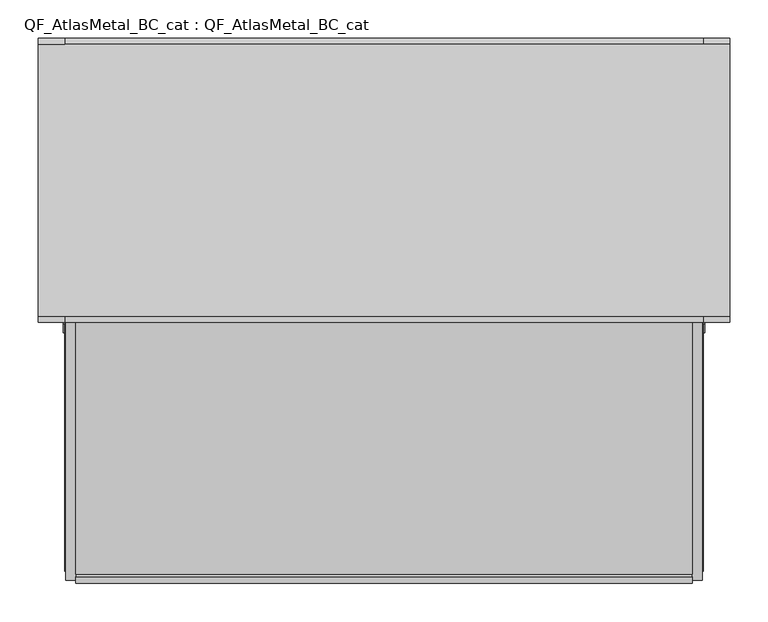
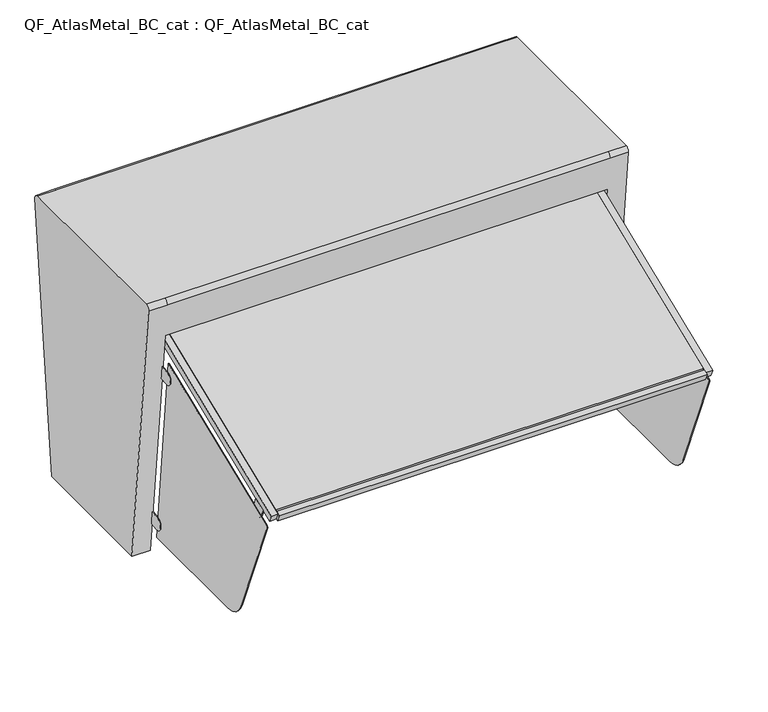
"""IFC4 building model written with IfcOpenShell, lengths in millimetres: proxy geometry, QF_AtlasMetal_BC_cat : QF_AtlasMetal_BC_cat."""

from ifc_helpers import new_model, si_unit, point, frame, frame_2d, origin, place, context, project, spatial, polyline, circle_curve, trimmed, segment, composite_curve, outline, extrude, source, transform, mapped, element, save
from ifc_brep_helpers import plane_surface, cylinder_surface, advanced_brep


def qf_atlasmetal_bc_cat_qf_atlasmetal_bc_cat_d30facc0(model_context):
    return source(origin(), model_context, "Body", "SolidModel", [
        extrude(outline(composite_curve([segment(polyline([(-668.0282211, 69.8699851), (-751.0990527, 275.4775082)]), True, "CONTINUOUS"), segment(trimmed(circle_curve(frame_2d((-748.155244, 276.6668842)), 3.175), [point((-751.0990527, 275.4775082))], [point((-749.3446199, 279.6106929))], False, "CARTESIAN"), True, "CONTINUOUS"), segment(polyline([(-749.3446199, 279.6106929), (-428.4785012, 409.2490198), (-389.817145, 38.1), (-620.9272813, 38.1)]), True, "CONTINUOUS"), segment(trimmed(circle_curve(frame_2d((-620.9272813, 88.9)), 50.8), [point((-620.9272813, 38.1))], [point((-668.0282211, 69.8699851))], False, "CARTESIAN"), True, "CONTINUOUS")], self_intersect=False)), frame((476.1553745, 0.0, 0.0), z_axis=(1.0, 0.0, 0.0), x_axis=(0.0, 1.0, 0.0)), (0.0, 0.0, 1.0), 1.6002),
        extrude(outline(composite_curve([segment(trimmed(circle_curve(frame_2d((-719.012123, 291.8658171)), 12.7), [point((-707.2368881, 296.6233209))], [point((-730.787358, 287.1083134))], False, "CARTESIAN"), True, "CONTINUOUS"), segment(polyline([(-730.787358, 287.1083134), (-736.7342377, 301.8273571), (-713.1837677, 311.3423646), (-707.2368881, 296.6233209)]), True, "CONTINUOUS")], self_intersect=False)), frame((474.5678745, 0.0, 0.0), z_axis=(1.0, 0.0, 0.0), x_axis=(0.0, 1.0, 0.0)), (0.0, 0.0, 1.0), 1.6002),
        extrude(outline(composite_curve([segment(polyline([(-408.4125929, 368.2533916), (-424.2021601, 366.608645)]), True, "CONTINUOUS"), segment(trimmed(circle_curve(frame_2d((-425.5179574, 379.2402988)), 12.7), [point((-424.2021601, 366.608645))], [point((-426.8337547, 391.8719526))], False, "CARTESIAN"), True, "CONTINUOUS"), segment(polyline([(-426.8337547, 391.8719526), (-411.0441874, 393.5166992), (-408.4125929, 368.2533916)]), True, "CONTINUOUS")], self_intersect=False)), frame((477.7555745, 0.0, 0.0), z_axis=(1.0, 0.0, 0.0), x_axis=(0.0, 1.0, 0.0)), (0.0, 0.0, 1.0), 1.6002),
        extrude(outline(composite_curve([segment(polyline([(-375.9013013, 57.7324921), (-391.6908685, 56.0877455)]), True, "CONTINUOUS"), segment(trimmed(circle_curve(frame_2d((-393.0066658, 68.7193993)), 12.7), [point((-391.6908685, 56.0877455))], [point((-394.322463, 81.3510531))], False, "CARTESIAN"), True, "CONTINUOUS"), segment(polyline([(-394.322463, 81.3510531), (-378.5328958, 82.9957997), (-375.9013013, 57.7324921)]), True, "CONTINUOUS")], self_intersect=False)), frame((477.7555745, 0.0, 0.0), z_axis=(1.0, 0.0, 0.0), x_axis=(0.0, 1.0, 0.0)), (0.0, 0.0, 1.0), 1.6002),
        extrude(outline(composite_curve([segment(polyline([(-668.0282211, 69.8699851), (-751.0990527, 275.4775082)]), True, "CONTINUOUS"), segment(trimmed(circle_curve(frame_2d((-748.155244, 276.6668842)), 3.175), [point((-751.0990527, 275.4775082))], [point((-749.3446199, 279.6106929))], False, "CARTESIAN"), True, "CONTINUOUS"), segment(polyline([(-749.3446199, 279.6106929), (-428.4785012, 409.2490198), (-389.817145, 38.1), (-620.9272813, 38.1)]), True, "CONTINUOUS"), segment(trimmed(circle_curve(frame_2d((-620.9272813, 88.9)), 50.8), [point((-620.9272813, 38.1))], [point((-668.0282211, 69.8699851))], False, "CARTESIAN"), True, "CONTINUOUS")], self_intersect=False)), frame((-360.4444255, 0.0, 0.0), z_axis=(1.0, 0.0, 0.0), x_axis=(0.0, 1.0, 0.0)), (0.0, 0.0, 1.0), 1.6002),
        extrude(outline(composite_curve([segment(trimmed(circle_curve(frame_2d((-719.012123, 291.8658171)), 12.7), [point((-707.2368881, 296.6233209))], [point((-730.787358, 287.1083134))], False, "CARTESIAN"), True, "CONTINUOUS"), segment(polyline([(-730.787358, 287.1083134), (-736.7342377, 301.8273571), (-713.1837677, 311.3423646), (-707.2368881, 296.6233209)]), True, "CONTINUOUS")], self_intersect=False)), frame((-358.8569255, 0.0, 0.0), z_axis=(1.0, 0.0, 0.0), x_axis=(0.0, 1.0, 0.0)), (0.0, 0.0, 1.0), 1.6002),
        extrude(outline(composite_curve([segment(polyline([(-408.4125929, 368.2533916), (-424.2021601, 366.608645)]), True, "CONTINUOUS"), segment(trimmed(circle_curve(frame_2d((-425.5179574, 379.2402988)), 12.7), [point((-424.2021601, 366.608645))], [point((-426.8337547, 391.8719526))], False, "CARTESIAN"), True, "CONTINUOUS"), segment(polyline([(-426.8337547, 391.8719526), (-411.0441874, 393.5166992), (-408.4125929, 368.2533916)]), True, "CONTINUOUS")], self_intersect=False)), frame((-362.0446255, 0.0, 0.0), z_axis=(1.0, 0.0, 0.0), x_axis=(0.0, 1.0, 0.0)), (0.0, 0.0, 1.0), 1.6002),
        extrude(outline(composite_curve([segment(polyline([(-375.9013013, 57.7324921), (-391.6908685, 56.0877455)]), True, "CONTINUOUS"), segment(trimmed(circle_curve(frame_2d((-393.0066658, 68.7193993)), 12.7), [point((-391.6908685, 56.0877455))], [point((-394.322463, 81.3510531))], False, "CARTESIAN"), True, "CONTINUOUS"), segment(polyline([(-394.322463, 81.3510531), (-378.5328958, 82.9957997), (-375.9013013, 57.7324921)]), True, "CONTINUOUS")], self_intersect=False)), frame((-362.0446255, 0.0, 0.0), z_axis=(1.0, 0.0, 0.0), x_axis=(0.0, 1.0, 0.0)), (0.0, 0.0, 1.0), 1.6002),
        extrude(outline(polyline([(0.0, -376.7075879), (0.0, 0.0), (809.625, 0.0), (809.625, -376.7075879), (0.0, -376.7075879)])), frame((463.4680745, -752.3773219, 302.4805103), z_axis=(0.0, -0.3746065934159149, 0.9271838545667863), x_axis=(-1.0, 0.0, 0.0)), (0.0, 0.0, 1.0), 7.8219044),
        extrude(outline(polyline([(0.0, -21.1888956), (0.0, 0.0), (809.625, 0.0), (809.625, -21.1888956), (0.0, -21.1888956)])), frame((463.4680745, -400.6780737, 437.6028607), z_axis=(0.0, -0.37460659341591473, 0.9271838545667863), x_axis=(-1.0, 0.0, 0.0)), (0.0, 0.0, 1.0), 14.2875),
        extrude(outline(polyline([(0.0, -9.525), (0.0, 0.0), (809.625, 0.0), (809.625, -9.525), (0.0, -9.525)])), frame((463.4680745, -762.1645087, 291.5528607), z_axis=(0.0, -0.3746065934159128, 0.9271838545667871), x_axis=(-1.0, 0.0, 0.0)), (0.0, 0.0, 1.0), 14.2875),
        extrude(outline(polyline([(0.0, -406.8267956), (0.0, 0.0), (12.7, 0.0), (12.7, -406.8267956), (0.0, -406.8267956)])), frame((476.1680745, -758.2353083, 293.1403607), z_axis=(0.0, -0.3746065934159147, 0.9271838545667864), x_axis=(-1.0, 0.0, 0.0)), (0.0, 0.0, 1.0), 14.2875),
        extrude(outline(polyline([(0.0, -406.8267956), (0.0, 0.0), (12.7, 0.0), (12.7, -406.8267956), (0.0, -406.8267956)])), frame((-346.1569255, -758.2353083, 293.1403607), z_axis=(0.0, -0.37460659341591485, 0.9271838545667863), x_axis=(-1.0, 0.0, 0.0)), (0.0, 0.0, 1.0), 14.2875),
        advanced_brep(
        [(-360.4444255, -369.8875, 0.0), (-360.4444255, -106.3625, 0.0), (-360.4444255, -58.5721354, 458.7875), (-360.4444255, -417.6778646, 458.7875), (-395.3694255, -369.8875, 0.0), (-395.3694255, -424.5360532, 524.6261109), (-395.3694255, -416.6286379, 533.4), (-395.3694255, -59.6072704, 533.4), (-395.3694255, -51.7124868, 524.6401267), (-395.3694255, -106.3625, 0.0), (-360.4444255, -51.7124868, 524.6401267), (477.7555745, -51.7124868, 524.6401267), (512.6805745, -51.7124868, 524.6401267), (512.6805745, -106.3625, 0.0), (477.7555745, -106.3625, 0.0), (477.7555745, -58.5721354, 458.7875), (-360.4444255, -59.6072704, 533.4), (-360.4444255, -416.6286379, 533.4), (477.7555745, -416.6286379, 533.4), (512.6805745, -416.6286379, 533.4), (512.6805745, -59.6072704, 533.4), (477.7555745, -59.6072704, 533.4), (-360.4444255, -424.5360532, 524.6261109), (477.7555745, -417.6778646, 458.7875), (477.7555745, -369.8875, 0.0), (512.6805745, -369.8875, 0.0), (512.6805745, -424.5360532, 524.6261109), (477.7555745, -424.5360532, 524.6261109)],
        [
            (0, 1),
            (1, 2),
            (2, 3),
            (3, 0),
            (4, 5),
            (5, 6, circle_curve(frame((-395.3694255, -416.6286379, 525.4498), z_axis=(-1.0, 0.0, 0.0), x_axis=(0.0, 1.0, 0.0)), 7.9502)),
            (6, 7),
            (7, 8, circle_curve(frame((-395.3694255, -59.6072704, 525.4625), z_axis=(-1.0, 0.0, 0.0), x_axis=(0.0, 1.0, 0.0)), 7.9375)),
            (8, 9),
            (9, 4),
            (0, 4),
            (9, 1),
            (8, 10),
            (10, 11),
            (11, 12),
            (12, 13),
            (13, 14),
            (14, 15),
            (15, 2),
            (7, 16),
            (16, 10, circle_curve(frame((-360.4444255, -59.6072704, 525.4625), z_axis=(-1.0, 0.0, 0.0), x_axis=(0.0, 1.0, 0.0)), 7.9375)),
            (6, 17),
            (17, 18),
            (18, 19),
            (19, 20),
            (20, 21),
            (21, 16),
            (5, 22),
            (22, 17, circle_curve(frame((-360.4444255, -416.6286379, 525.4498), z_axis=(-1.0, 0.0, 0.0), x_axis=(0.0, 1.0, 0.0)), 7.9502)),
            (3, 23),
            (23, 24),
            (24, 25),
            (25, 26),
            (26, 27),
            (27, 22),
            (27, 18, circle_curve(frame((477.7555745, -416.6286379, 525.4498), z_axis=(-1.0, 0.0, 0.0), x_axis=(0.0, 1.0, 0.0)), 7.9502)),
            (15, 23),
            (21, 11, circle_curve(frame((477.7555745, -59.6072704, 525.4625), z_axis=(-1.0, 0.0, 0.0), x_axis=(0.0, 1.0, 0.0)), 7.9375)),
            (14, 24),
            (25, 13),
            (12, 20, circle_curve(frame((512.6805745, -59.6072704, 525.4625), z_axis=(1.0, 0.0, 0.0), x_axis=(0.0, 1.0, 0.0)), 7.9375)),
            (19, 26, circle_curve(frame((512.6805745, -416.6286379, 525.4498), z_axis=(1.0, 0.0, 0.0), x_axis=(0.0, 1.0, 0.0)), 7.9502)),
        ],
        [
            plane_surface(frame((-360.4444255, -106.3625, 0.0), z_axis=(1.0, 0.0, 0.0), x_axis=(0.0, 1.0, 0.0))),
            plane_surface(frame((-395.3694255, -106.3625, 0.0), z_axis=(-1.0, 0.0, 0.0), x_axis=(0.0, -1.0, 0.0))),
            plane_surface(frame((-360.4444255, -369.8875, 0.0), z_axis=(0.0, 0.0, -1.0), x_axis=(-1.0, 0.0, 0.0))),
            plane_surface(frame((-360.4444255, -106.3625, 0.0), z_axis=(0.0, 0.9946184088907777, -0.10360608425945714), x_axis=(-1.0, 0.0, 0.0))),
            cylinder_surface(frame((-395.3694255, -59.6072704, 525.4625), z_axis=(1.0, 0.0, 0.0), x_axis=(0.0, 1.0, 0.0)), 7.9375),
            plane_surface(frame((-360.4444255, -59.6072704, 533.4), z_axis=(0.0, 0.0, 1.0), x_axis=(-1.0, 0.0, 0.0))),
            cylinder_surface(frame((-395.3694255, -416.6286379, 525.4498), z_axis=(1.0, 0.0, 0.0), x_axis=(0.0, 1.0, 0.0)), 7.9502),
            plane_surface(frame((-360.4444255, -424.5360532, 524.6261109), z_axis=(0.0, -0.9946184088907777, -0.10360608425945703), x_axis=(-1.0, 0.0, 0.0))),
            cylinder_surface(frame((-360.4444255, -416.6286379, 525.4498), z_axis=(1.0, 0.0, 0.0), x_axis=(0.0, 1.0, 0.0)), 7.9502),
            plane_surface(frame((477.7555745, -417.6778646, 458.7875), z_axis=(0.0, 0.0, -1.0), x_axis=(-1.0, 0.0, 0.0))),
            cylinder_surface(frame((-360.4444255, -59.6072704, 525.4625), z_axis=(1.0, 0.0, 0.0), x_axis=(0.0, 1.0, 0.0)), 7.9375),
            plane_surface(frame((477.7555745, -106.3625, 0.0), z_axis=(-1.0, 0.0, 0.0), x_axis=(0.0, -1.0, 0.0))),
            plane_surface(frame((512.6805745, -106.3625, 0.0), z_axis=(1.0, 0.0, 0.0), x_axis=(0.0, 1.0, 0.0))),
            plane_surface(frame((512.6805745, -369.8875, 0.0), z_axis=(0.0, 0.0, -1.0), x_axis=(-1.0, 0.0, 0.0))),
            cylinder_surface(frame((477.7555745, -59.6072704, 525.4625), z_axis=(1.0, 0.0, 0.0), x_axis=(0.0, 1.0, 0.0)), 7.9375),
            cylinder_surface(frame((477.7555745, -416.6286379, 525.4498), z_axis=(1.0, 0.0, 0.0), x_axis=(0.0, 1.0, 0.0)), 7.9502),
        ],
        [
            (0, [[1, 2, 3, 4]]),
            (1, [[5, 6, 7, 8, 9, 10]]),
            (2, [[-1, 11, -10, 12]]),
            (3, [[-9, 13, 14, 15, 16, 17, 18, 19, -2, -12]]),
            (4, [[-8, 20, 21, -13]]),
            (5, [[-7, 22, 23, 24, 25, 26, 27, -20]]),
            (6, [[-6, 28, 29, -22]]),
            (7, [[-5, -11, -4, 30, 31, 32, 33, 34, 35, -28]]),
            (8, [[-23, -29, -35, 36]]),
            (9, [[-30, -3, -19, 37]]),
            (10, [[-27, 38, -14, -21]]),
            (11, [[39, -31, -37, -18]]),
            (12, [[40, -16, 41, -25, 42, -33]]),
            (13, [[-39, -17, -40, -32]]),
            (14, [[-41, -15, -38, -26]]),
            (15, [[-42, -24, -36, -34]]),
        ],
    ),
    ])


if __name__ == "__main__":
    model = new_model("IFC4")
    model_context = context("Model", 3, world=origin())
    ifc_project = project(units=[si_unit("LENGTHUNIT", "METRE", prefix="MILLI")], contexts=[model_context])
    site = spatial("IfcSite", under=ifc_project)
    building = spatial("IfcBuilding", under=site)
    placement = place(None, origin())
    qf_atlasmetal_bc_cat_qf_atlasmetal_bc_cat_shape = qf_atlasmetal_bc_cat_qf_atlasmetal_bc_cat_d30facc0(model_context)
    element("IfcBuildingElementProxy", 1, Name="QF_AtlasMetal_BC_cat : QF_AtlasMetal_BC_cat", ObjectType="QF_AtlasMetal_BC_cat : QF_AtlasMetal_BC_cat", at=placement, inside=building, context=model_context, shape_type="MappedRepresentation", body=[
        mapped(qf_atlasmetal_bc_cat_qf_atlasmetal_bc_cat_shape, transform((0.0, 0.0, 0.0), x_axis=(1.0, 0.0, 0.0), y_axis=(0.0, 1.0, 0.0), z_axis=(0.0, 0.0, 1.0))),
    ])
    save(model, "model.ifc")
